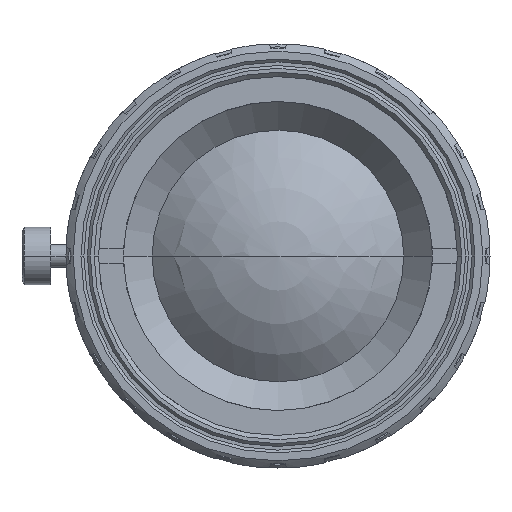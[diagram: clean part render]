
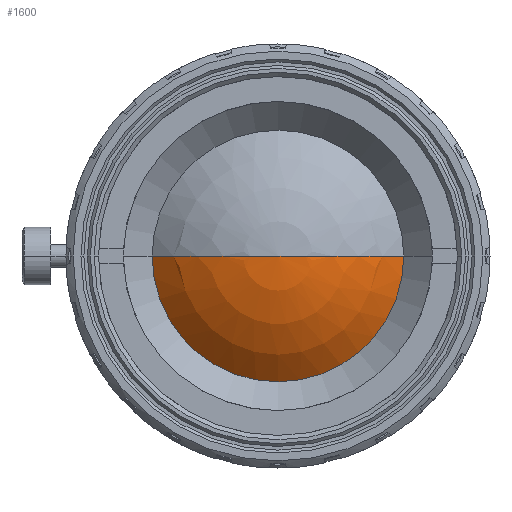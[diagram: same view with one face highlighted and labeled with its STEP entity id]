
A CAD part, left-side view. The second image highlights one B-rep face of the part: STEP entity #1600.
In plain terms, the highlighted spherical face has radius 12.43 mm.
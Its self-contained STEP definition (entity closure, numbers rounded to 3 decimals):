
#1180=CARTESIAN_POINT('',(-24.211,-8.75,0.));
#1190=VERTEX_POINT('',#1180);
#1270=CARTESIAN_POINT('',(-24.211,8.75,0.));
#1280=VERTEX_POINT('',#1270);
#1310=CARTESIAN_POINT('',(-24.211,0.,0.));
#1320=DIRECTION('',(1.,0.,0.));
#1330=DIRECTION('',(0.,1.,0.));
#1340=AXIS2_PLACEMENT_3D('',#1310,#1320,#1330);
#1350=CIRCLE('',#1340,8.75);
#1360=EDGE_CURVE('',#1190,#1280,#1350,.T.);
#1410=CARTESIAN_POINT('',(-15.383,0.,0.));
#1420=DIRECTION('',(1.,0.,0.));
#1430=DIRECTION('',(0.,-1.,0.));
#1440=AXIS2_PLACEMENT_3D('',#1410,#1420,#1430);
#1450=SPHERICAL_SURFACE('',#1440,12.43);
#1460=CARTESIAN_POINT('',(-15.383,0.,0.));
#1470=DIRECTION('',(0.,0.,-1.));
#1480=DIRECTION('',(1.,-0.,0.));
#1490=AXIS2_PLACEMENT_3D('',#1460,#1470,#1480);
#1500=CIRCLE('',#1490,12.43);
#1510=CARTESIAN_POINT('',(-27.813,0.,0.));
#1520=VERTEX_POINT('',#1510);
#1530=EDGE_CURVE('',#1520,#1280,#1500,.T.);
#1540=ORIENTED_EDGE('',*,*,#1530,.T.);
#1550=EDGE_CURVE('',#1190,#1520,#1500,.T.);
#1560=ORIENTED_EDGE('',*,*,#1550,.T.);
#1570=ORIENTED_EDGE('',*,*,#1360,.F.);
#1580=EDGE_LOOP('',(#1570,#1560,#1540));
#1590=FACE_OUTER_BOUND('',#1580,.T.);
#1600=ADVANCED_FACE('',(#1590),#1450,.T.);
